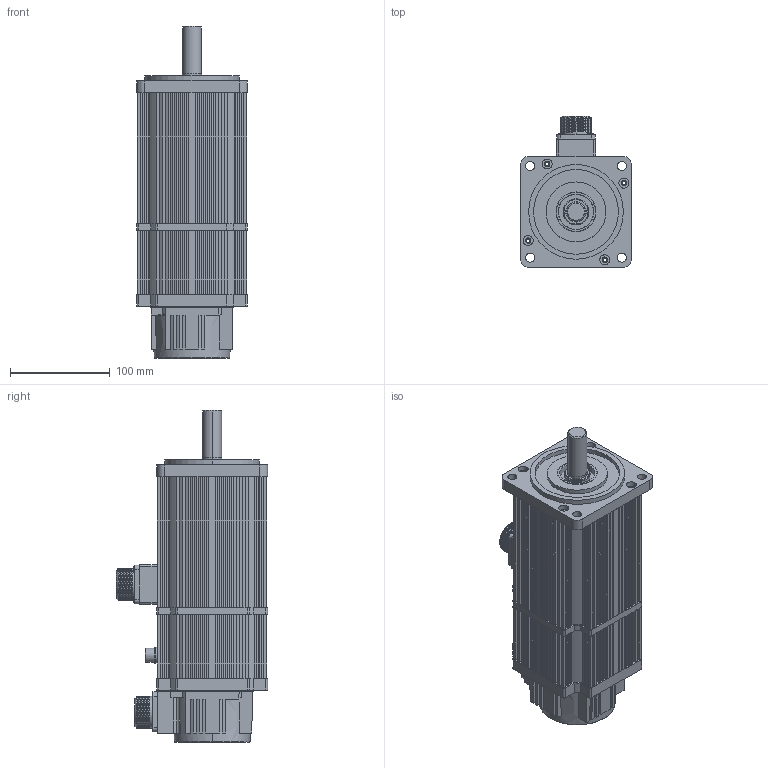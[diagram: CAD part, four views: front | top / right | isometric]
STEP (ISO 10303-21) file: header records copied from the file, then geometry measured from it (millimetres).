
FILE_DESCRIPTION (( 'STEP AP203' ), '1' );
FILE_NAME ('110电磁抱闸5N.M.STEP', '2017-02-22T07:03:47', ( '中国系统网V16.0' ), ( '中国系统网V16.0' ), 'SwSTEP 2.0', 'SolidWorks 2014', '' );
FILE_SCHEMA (( 'CONFIG_CONTROL_DESIGN' ));
Length unit declared in the file: millimetre
Products named in the file (14): 110蚐猾; 110綴欶砎蝶菜; 110蛌粣; 110儂褲(惕掅); 粣創6304ㄗ110炵蹈ㄘ; 110ヶ傷裔; 110儂褲(5NM); 80三芯航插（永磁抱闸）; 110晤鎢ん脣芛; 110萇棠惕掅5N.M; 110瑤船; 110綴傷裔; 110綴傷裔惕掅; 110綴欶
Assembly tree (13 placements, depth 2):
  110萇棠惕掅5N.M
    110儂褲(5NM)
    110晤鎢ん脣芛
    110瑤船
    110綴傷裔
    110綴傷裔惕掅
    110綴欶
    110綴欶砎蝶菜
    110儂褲(惕掅)
    110ヶ傷裔
    110蚐猾
    110蛌粣
    粣創6304ㄗ110炵蹈ㄘ
    80三芯航插（永磁抱闸）
Bounding box: 111.2 x 151.6 x 333 mm (x, y, z)
Volume: 988853.2 mm3; surface area: 489844.9 mm2
Topology: 16 solids, 16 shells, 1453 faces, 4163 edges, 2737 vertices
Faces by surface type: plane 757, cylinder 531, sphere 81, torus 42, cone 40, bspline 2
Entity records: 52381 total; most frequent: CARTESIAN_POINT 13829, ORIENTED_EDGE 7816, DIRECTION 7671, EDGE_CURVE 3908, AXIS2_PLACEMENT_3D 2630, VERTEX_POINT 2581, LINE 2411, VECTOR 2411
